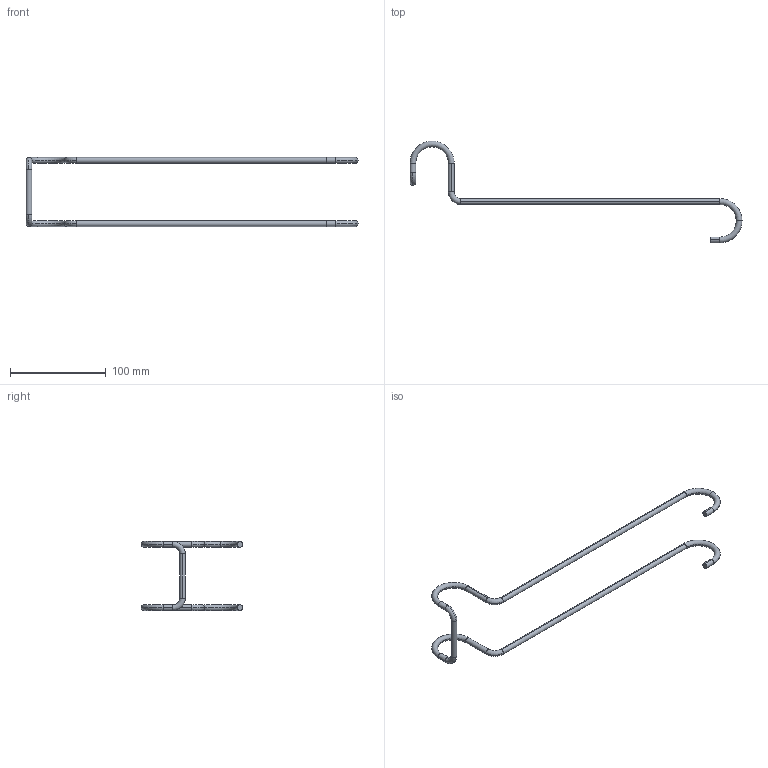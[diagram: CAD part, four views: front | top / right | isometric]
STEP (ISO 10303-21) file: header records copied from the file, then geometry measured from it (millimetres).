
FILE_DESCRIPTION (( 'STEP AP203' ), '1' );
FILE_NAME ('015.300.014.STEP', '2016-10-24T08:57:35', ( '' ), ( '' ), 'SwSTEP 2.0', 'SolidWorks 2016', '' );
FILE_SCHEMA (( 'CONFIG_CONTROL_DESIGN' ));
Length unit declared in the file: millimetre
Products named in the file (1): 015.300.014
Bounding box: 346 x 106 x 72 mm (x, y, z)
Volume: 28278.8 mm3; surface area: 18909.1 mm2
Topology: 1 solids, 1 shells, 38 faces, 98 edges, 62 vertices
Faces by surface type: torus 18, cylinder 18, plane 2
Entity records: 1279 total; most frequent: DIRECTION 256, CARTESIAN_POINT 199, ORIENTED_EDGE 196, AXIS2_PLACEMENT_3D 119, EDGE_CURVE 98, CIRCLE 80, VERTEX_POINT 62, ADVANCED_FACE 38
